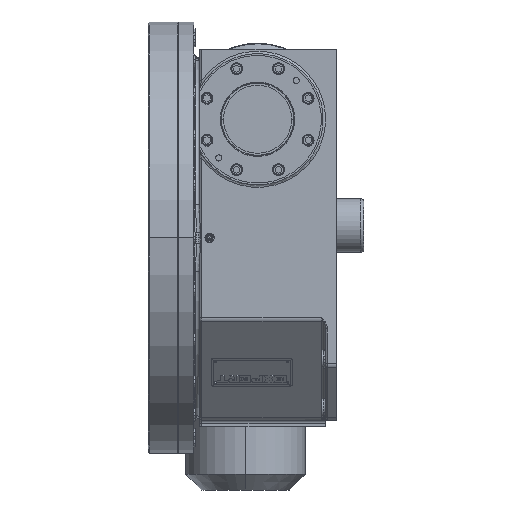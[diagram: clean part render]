
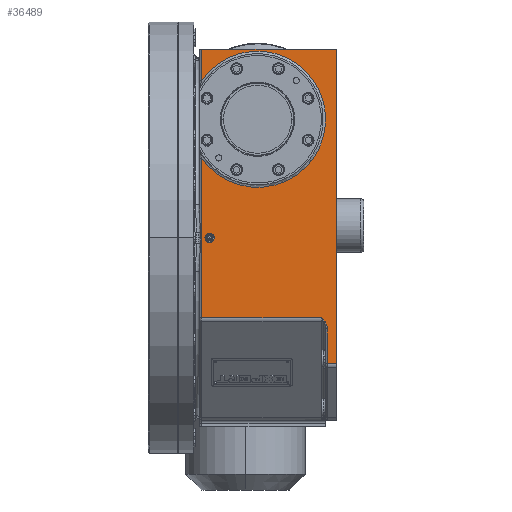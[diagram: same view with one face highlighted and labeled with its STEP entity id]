
A CAD part, left-side view. The second image highlights one B-rep face of the part: STEP entity #36489.
In plain terms, the highlighted planar face has unit normal (-1, 0, 0).
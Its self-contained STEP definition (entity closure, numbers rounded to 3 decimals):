
#22665=CARTESIAN_POINT('',(-300.,209.,0.));
#22666=DIRECTION('',(-1.,0.,0.));
#22667=DIRECTION('',(0.,-1.,0.));
#22668=AXIS2_PLACEMENT_3D('',#22665,#22666,#22667);
#22670=CARTESIAN_POINT('',(-300.,209.,0.));
#22671=DIRECTION('',(-1.,0.,0.));
#22672=DIRECTION('',(0.,1.,0.));
#22673=AXIS2_PLACEMENT_3D('',#22670,#22671,#22672);
#22675=DIRECTION('',(0.,1.,0.));
#22676=VECTOR('',#22675,222.);
#22677=CARTESIAN_POINT('',(-300.,0.,310.));
#22678=LINE('',#22677,#22676);
#22679=DIRECTION('',(0.,0.,1.));
#22680=VECTOR('',#22679,516.979);
#22681=CARTESIAN_POINT('',(-300.,0.,-206.979));
#22682=LINE('',#22681,#22680);
#22683=DIRECTION('',(0.,-1.,0.));
#22684=VECTOR('',#22683,15.);
#22685=CARTESIAN_POINT('',(-300.,15.,-206.979));
#22686=LINE('',#22685,#22684);
#22687=DIRECTION('',(0.,0.,1.));
#22688=VECTOR('',#22687,56.982);
#22689=CARTESIAN_POINT('',(-300.,15.,-206.979));
#22690=LINE('',#22689,#22688);
#22691=CARTESIAN_POINT('',(-300.,15.,
-149.997));
#22692=CARTESIAN_POINT('',(-300.,15.,
-148.686));
#22693=CARTESIAN_POINT('',(-300.,15.209,
-146.207));
#22694=CARTESIAN_POINT('',(-300.,16.008,
-142.906));
#22695=CARTESIAN_POINT('',(-300.,17.209,
-140.049));
#22696=CARTESIAN_POINT('',(-300.,18.242,
-138.473));
#22697=CARTESIAN_POINT('',(-300.,18.82,
-137.766));
#22699=CARTESIAN_POINT('',(-300.,18.82,
-137.766));
#22700=CARTESIAN_POINT('',(-300.,19.132,
-137.385));
#22701=CARTESIAN_POINT('',(-300.,19.799,
-136.619));
#22702=CARTESIAN_POINT('',(-300.,20.934,
-135.457));
#22703=CARTESIAN_POINT('',(-300.,22.201,
-134.277));
#22704=CARTESIAN_POINT('',(-300.,23.597,
-133.065));
#22705=CARTESIAN_POINT('',(-300.,24.53,
-132.285));
#22706=CARTESIAN_POINT('',(-300.,25.,-131.892));
#22708=DIRECTION('',(0.,-1.,0.));
#22709=VECTOR('',#22708,197.);
#22710=CARTESIAN_POINT('',(-300.,222.,-131.892));
#22711=LINE('',#22710,#22709);
#22712=DIRECTION('',(0.,0.,1.));
#22713=VECTOR('',#22712,263.017);
#22714=CARTESIAN_POINT('',(-300.,222.,-131.892));
#22715=LINE('',#22714,#22713);
#22716=CARTESIAN_POINT('',(-300.,130.,195.));
#22717=DIRECTION('',(-1.,0.,0.));
#22718=DIRECTION('',(0.,0.821,-0.57));
#22719=AXIS2_PLACEMENT_3D('',#22716,#22717,#22718);
#22721=DIRECTION('',(0.,0.,-1.));
#22722=VECTOR('',#22721,51.125);
#22723=CARTESIAN_POINT('',(-300.,222.,310.));
#22724=LINE('',#22723,#22722);
#31381=CARTESIAN_POINT('',(-300.,222.,131.125));
#31402=CARTESIAN_POINT('',(-300.,222.,258.875));
#34388=CARTESIAN_POINT('',(-300.,216.5,0.));
#34389=CARTESIAN_POINT('',(-300.,201.5,0.));
#34390=VERTEX_POINT('',#34388);
#34391=VERTEX_POINT('',#34389);
#34430=CARTESIAN_POINT('',(-300.,0.,310.));
#34432=VERTEX_POINT('',#34430);
#34746=CARTESIAN_POINT('',(-300.,222.,310.));
#34747=VERTEX_POINT('',#34746);
#34752=CARTESIAN_POINT('',(-300.,0.,-206.979));
#34753=VERTEX_POINT('',#34752);
#35421=VERTEX_POINT('',#22699);
#35422=VERTEX_POINT('',#22706);
#35425=VERTEX_POINT('',#22691);
#35426=CARTESIAN_POINT('',(-300.,15.,-206.979));
#35427=VERTEX_POINT('',#35426);
#35502=VERTEX_POINT('',#31381);
#35504=CARTESIAN_POINT('',(-300.,222.,-131.892));
#35505=VERTEX_POINT('',#35504);
#35581=VERTEX_POINT('',#31402);
#36456=CARTESIAN_POINT('',(-300.,-5.,-210.618));
#36457=DIRECTION('',(-1.,0.,0.));
#36458=DIRECTION('',(0.,0.,1.));
#36459=AXIS2_PLACEMENT_3D('',#36456,#36457,#36458);
#36460=PLANE('',#36459);
#36462=ORIENTED_EDGE('',*,*,#36461,.F.);
#36464=ORIENTED_EDGE('',*,*,#36463,.F.);
#36466=ORIENTED_EDGE('',*,*,#36465,.F.);
#36468=ORIENTED_EDGE('',*,*,#36467,.T.);
#36470=ORIENTED_EDGE('',*,*,#36469,.T.);
#36472=ORIENTED_EDGE('',*,*,#36471,.T.);
#36474=ORIENTED_EDGE('',*,*,#36473,.F.);
#36476=ORIENTED_EDGE('',*,*,#36475,.T.);
#36478=ORIENTED_EDGE('',*,*,#36477,.T.);
#36480=ORIENTED_EDGE('',*,*,#36479,.F.);
#36481=EDGE_LOOP('',(#36462,#36464,#36466,#36468,#36470,#36472,#36474,#36476,
#36478,#36480));
#36482=FACE_OUTER_BOUND('',#36481,.F.);
#36484=ORIENTED_EDGE('',*,*,#36483,.T.);
#36486=ORIENTED_EDGE('',*,*,#36485,.T.);
#36487=EDGE_LOOP('',(#36484,#36486));
#36488=FACE_BOUND('',#36487,.F.);
#36489=ADVANCED_FACE('',(#36482,#36488),#36460,.T.);
#22669=CIRCLE('',#22668,7.5);
#22674=CIRCLE('',#22673,7.5);
#22698=B_SPLINE_CURVE_WITH_KNOTS('',3,(#22691,#22692,#22693,#22694,#22695,
#22696,#22697),.UNSPECIFIED.,.F.,.F.,(4,1,1,1,4),(0.,0.25,0.5,0.75,
1.),.UNSPECIFIED.);
#22707=B_SPLINE_CURVE_WITH_KNOTS('',3,(#22699,#22700,#22701,#22702,#22703,
#22704,#22705,#22706),.UNSPECIFIED.,.F.,.F.,(4,1,1,1,1,4),(0.,0.2,0.4,
0.6,0.8,1.),.UNSPECIFIED.);
#22720=CIRCLE('',#22719,112.);
#36461=EDGE_CURVE('',#34432,#34747,#22678,.T.);
#36463=EDGE_CURVE('',#34753,#34432,#22682,.T.);
#36465=EDGE_CURVE('',#35427,#34753,#22686,.T.);
#36467=EDGE_CURVE('',#35427,#35425,#22690,.T.);
#36469=EDGE_CURVE('',#35425,#35421,#22698,.T.);
#36471=EDGE_CURVE('',#35421,#35422,#22707,.T.);
#36473=EDGE_CURVE('',#35505,#35422,#22711,.T.);
#36475=EDGE_CURVE('',#35505,#35502,#22715,.T.);
#36477=EDGE_CURVE('',#35502,#35581,#22720,.T.);
#36479=EDGE_CURVE('',#34747,#35581,#22724,.T.);
#36483=EDGE_CURVE('',#34391,#34390,#22669,.T.);
#36485=EDGE_CURVE('',#34390,#34391,#22674,.T.);
